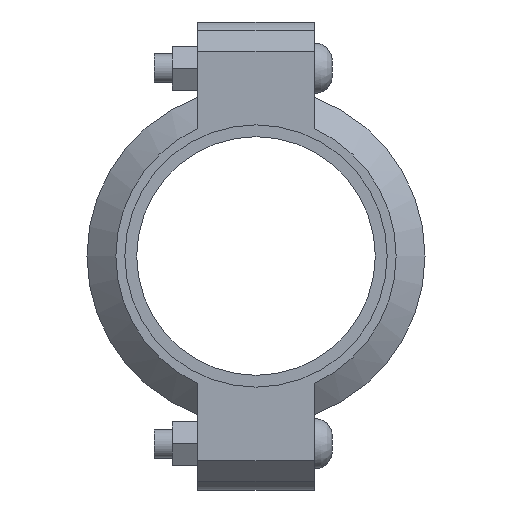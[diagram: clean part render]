
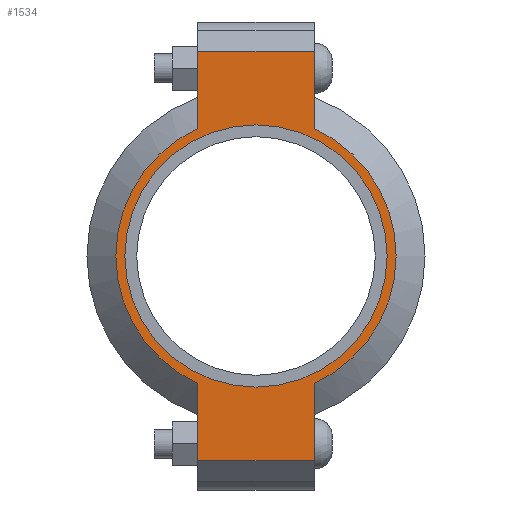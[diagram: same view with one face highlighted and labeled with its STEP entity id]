
A CAD part, left-side view. The second image highlights one B-rep face of the part: STEP entity #1534.
In plain terms, the highlighted planar face has unit normal (-1, 0, 0) as drawn and (0, 0, 1) by its records, which use the part's own axes.
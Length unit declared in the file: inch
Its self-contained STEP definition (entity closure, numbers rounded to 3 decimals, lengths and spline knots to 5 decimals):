
#158=LINE('',#2677,#251);
#166=LINE('',#2713,#259);
#173=LINE('',#2734,#266);
#182=LINE('',#2766,#275);
#183=LINE('',#2770,#276);
#184=LINE('',#2772,#277);
#251=VECTOR('',#2185,0.3937);
#259=VECTOR('',#2201,0.3937);
#266=VECTOR('',#2220,0.3937);
#275=VECTOR('',#2245,0.3937);
#276=VECTOR('',#2250,0.3937);
#277=VECTOR('',#2251,0.3937);
#333=FACE_BOUND('',#511,.T.);
#405=FACE_OUTER_BOUND('',#510,.T.);
#510=EDGE_LOOP('',(#1275,#1276,#1277,#1278,#1279,#1280,#1281,#1282));
#511=EDGE_LOOP('',(#1283));
#583=CIRCLE('',#1753,2.25);
#609=CIRCLE('',#1812,2.405);
#610=CIRCLE('',#1813,2.405);
#675=VERTEX_POINT('',#2493);
#718=VERTEX_POINT('',#2674);
#719=VERTEX_POINT('',#2676);
#730=VERTEX_POINT('',#2708);
#731=VERTEX_POINT('',#2712);
#738=VERTEX_POINT('',#2731);
#739=VERTEX_POINT('',#2733);
#749=VERTEX_POINT('',#2769);
#750=VERTEX_POINT('',#2771);
#831=EDGE_CURVE('',#675,#675,#583,.T.);
#892=EDGE_CURVE('',#719,#718,#158,.T.);
#906=EDGE_CURVE('',#731,#730,#166,.T.);
#916=EDGE_CURVE('',#739,#738,#173,.T.);
#931=EDGE_CURVE('',#731,#718,#182,.T.);
#932=EDGE_CURVE('',#730,#739,#609,.T.);
#933=EDGE_CURVE('',#749,#738,#183,.T.);
#934=EDGE_CURVE('',#749,#750,#184,.T.);
#935=EDGE_CURVE('',#750,#719,#610,.T.);
#1275=ORIENTED_EDGE('',*,*,#931,.F.);
#1276=ORIENTED_EDGE('',*,*,#906,.T.);
#1277=ORIENTED_EDGE('',*,*,#932,.T.);
#1278=ORIENTED_EDGE('',*,*,#916,.T.);
#1279=ORIENTED_EDGE('',*,*,#933,.F.);
#1280=ORIENTED_EDGE('',*,*,#934,.T.);
#1281=ORIENTED_EDGE('',*,*,#935,.T.);
#1282=ORIENTED_EDGE('',*,*,#892,.T.);
#1283=ORIENTED_EDGE('',*,*,#831,.T.);
#1376=PLANE('',#1811);
#1534=ADVANCED_FACE('',(#405,#333),#1376,.T.);
#1753=AXIS2_PLACEMENT_3D('',#2495,#2061,#2062);
#1811=AXIS2_PLACEMENT_3D('',#2767,#2246,#2247);
#1812=AXIS2_PLACEMENT_3D('',#2768,#2248,#2249);
#1813=AXIS2_PLACEMENT_3D('',#2773,#2252,#2253);
#2061=DIRECTION('center_axis',(0.,0.,-1.));
#2062=DIRECTION('ref_axis',(-1.,0.,0.));
#2185=DIRECTION('',(-1.,0.,0.));
#2201=DIRECTION('',(1.,0.,0.));
#2220=DIRECTION('',(1.,0.,0.));
#2245=DIRECTION('',(0.,1.,0.));
#2246=DIRECTION('center_axis',(0.,0.,1.));
#2247=DIRECTION('ref_axis',(1.,0.,0.));
#2248=DIRECTION('center_axis',(0.,0.,1.));
#2249=DIRECTION('ref_axis',(-1.,0.,0.));
#2250=DIRECTION('',(0.,-1.,0.));
#2251=DIRECTION('',(-1.,0.,0.));
#2252=DIRECTION('center_axis',(0.,0.,1.));
#2253=DIRECTION('ref_axis',(-1.,0.,0.));
#2493=CARTESIAN_POINT('',(2.25,0.,1.065));
#2495=CARTESIAN_POINT('Origin',(0.,0.,1.065));
#2674=CARTESIAN_POINT('',(-3.515,1.,1.065));
#2676=CARTESIAN_POINT('',(-2.18724,1.,1.065));
#2677=CARTESIAN_POINT('',(-4.015,1.,1.065));
#2708=CARTESIAN_POINT('',(-2.18724,-1.,1.065));
#2712=CARTESIAN_POINT('',(-3.515,-1.,1.065));
#2713=CARTESIAN_POINT('',(4.015,-1.,1.065));
#2731=CARTESIAN_POINT('',(3.515,-1.,1.065));
#2733=CARTESIAN_POINT('',(2.18724,-1.,1.065));
#2734=CARTESIAN_POINT('',(4.015,-1.,1.065));
#2766=CARTESIAN_POINT('',(-3.515,0.5,1.065));
#2767=CARTESIAN_POINT('Origin',(0.,0.,1.065));
#2768=CARTESIAN_POINT('Origin',(0.,0.,1.065));
#2769=CARTESIAN_POINT('',(3.515,1.,1.065));
#2770=CARTESIAN_POINT('',(3.515,-0.5,1.065));
#2771=CARTESIAN_POINT('',(2.18724,1.,1.065));
#2772=CARTESIAN_POINT('',(-4.015,1.,1.065));
#2773=CARTESIAN_POINT('Origin',(0.,0.,1.065));
